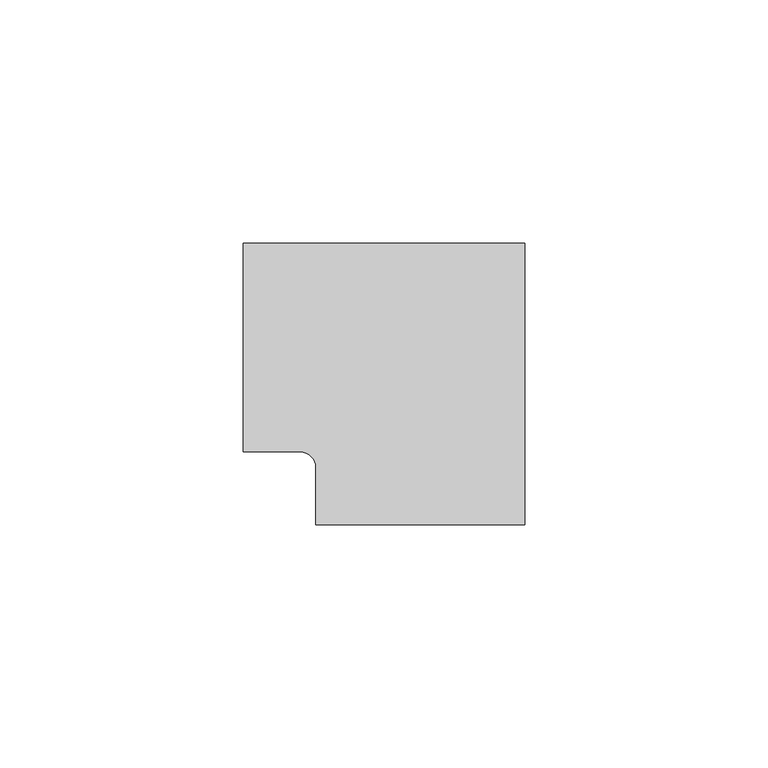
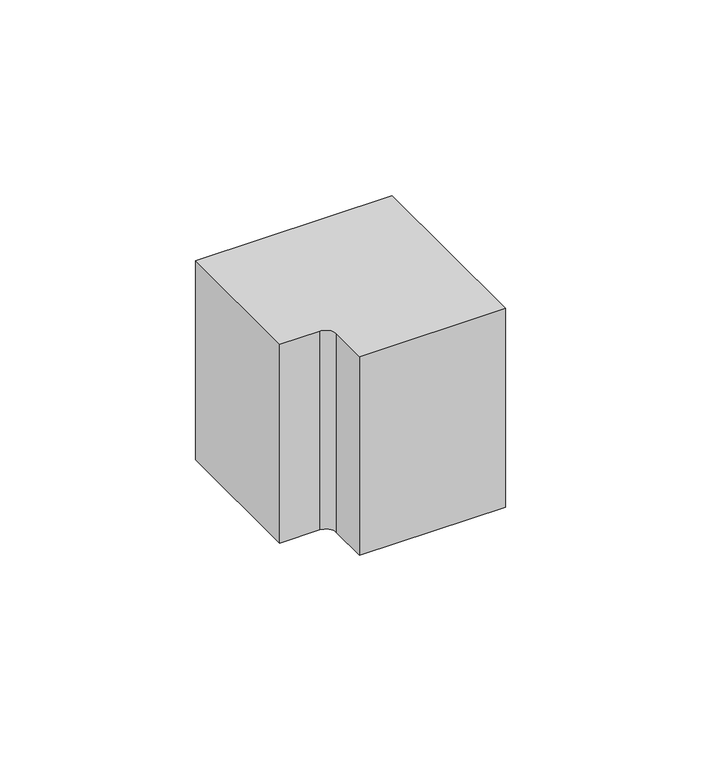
"""IFC4 building model written with IfcOpenShell, lengths in millimetres: proxy geometry, Внутренний_угол_КМВ : Внутренний угол КМВ 60х40."""

from ifc_helpers import new_model, si_unit, point, frame_2d, origin, origin_with_axes, place, context, project, spatial, polyline, circle_curve, trimmed, segment, composite_curve, outline, extrude, source, transform, mapped, element, save


def generic_models_a05b5f7e(model_context):
    return source(origin(), model_context, "Body", "SweptSolid", [
        extrude(outline(composite_curve([segment(polyline([(-15.0, 0.0), (-15.0, 42.9885299), (43.0, 42.9885299), (43.0, -15.0), (0.0, -15.0), (0.0, -3.184906)]), True, "CONTINUOUS"), segment(trimmed(circle_curve(frame_2d((-3.184906, -3.184906)), 3.184906), [point((0.0, -3.184906))], [point((-3.184906, 0.0))], True, "CARTESIAN"), True, "CONTINUOUS"), segment(polyline([(-3.184906, 0.0), (-15.0, 0.0)]), True, "CONTINUOUS")], self_intersect=False)), origin_with_axes(), (0.0, 0.0, 1.0), 62.0303508),
    ])


if __name__ == "__main__":
    model = new_model("IFC4")
    model_context = context("Model", 3, world=origin())
    ifc_project = project(units=[si_unit("LENGTHUNIT", "METRE", prefix="MILLI")], contexts=[model_context])
    site = spatial("IfcSite", under=ifc_project)
    building = spatial("IfcBuilding", under=site)
    placement = place(None, origin())
    generic_models_shape = generic_models_a05b5f7e(model_context)
    element("IfcBuildingElementProxy", 1, Name="Внутренний_угол_КМВ : Внутренний угол КМВ 60х40", ObjectType="Внутренний_угол_КМВ : Внутренний угол КМВ 60х40", at=placement, inside=building, context=model_context, shape_type="MappedRepresentation", body=[
        mapped(generic_models_shape, transform((0.0, 0.0, 0.0), x_axis=(1.0, 0.0, 0.0), y_axis=(0.0, 1.0, 0.0), z_axis=(0.0, 0.0, 1.0))),
    ])
    save(model, "model.ifc")
